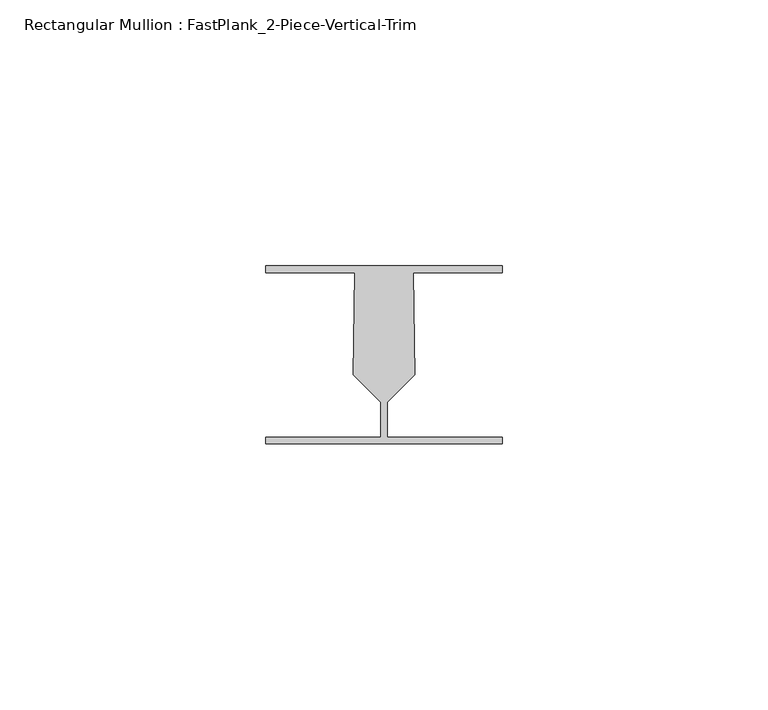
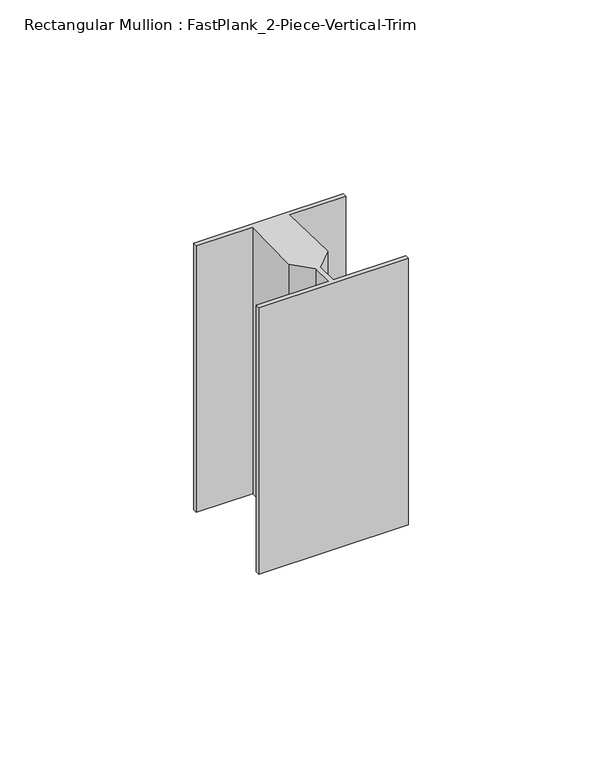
"""IFC4 building model written with IfcOpenShell, lengths in millimetres: member geometry, Rectangular Mullion : FastPlank_2-Piece-Vertical-Trim."""

from ifc_helpers import new_model, si_unit, frame, origin, place, context, project, spatial, polyline, outline, extrude, source, transform, mapped, element, save


def rectangular_mullion_fastplank_2_piece_vertical_trim_40761718(model_context):
    return source(origin(), model_context, "Body", "SweptSolid", [
        extrude(outline(polyline([(22.2251761, -11.8625052), (-22.2251761, -11.8625052), (-22.2251761, -10.5625078), (-0.6499987, -10.5625078), (-0.6499987, -3.992521), (-5.8241876, 1.1816679), (-5.4899028, 20.332833), (-22.2251761, 20.332833), (-22.2251761, 21.6328304), (22.2251761, 21.6328304), (22.2251761, 20.332833), (5.4899028, 20.332833), (5.8241876, 1.1816679), (0.6499987, -3.992521), (0.6499987, -10.5625078), (22.2251761, -10.5625078), (22.2251761, -11.8625052)])), frame((0.0, 0.0, -83.8500189), z_axis=(0.0, 0.0, 1.0), x_axis=(1.0, 0.0, 0.0)), (0.0, 0.0, 1.0), 83.8500189),
    ])


if __name__ == "__main__":
    model = new_model("IFC4")
    model_context = context("Model", 3, world=origin())
    ifc_project = project(units=[si_unit("LENGTHUNIT", "METRE", prefix="MILLI")], contexts=[model_context])
    site = spatial("IfcSite", under=ifc_project)
    building = spatial("IfcBuilding", under=site)
    placement = place(None, origin())
    rectangular_mullion_fastplank_2_piece_vertical_trim_shape = rectangular_mullion_fastplank_2_piece_vertical_trim_40761718(model_context)
    element("IfcMember", 1, ObjectType="Rectangular Mullion : FastPlank_2-Piece-Vertical-Trim", at=placement, inside=building, context=model_context, shape_type="MappedRepresentation", body=[
        mapped(rectangular_mullion_fastplank_2_piece_vertical_trim_shape, transform((0.0, 0.0, 0.0), x_axis=(1.0, 0.0, 0.0), y_axis=(0.0, 1.0, 0.0), z_axis=(0.0, 0.0, 1.0))),
    ])
    save(model, "model.ifc")
